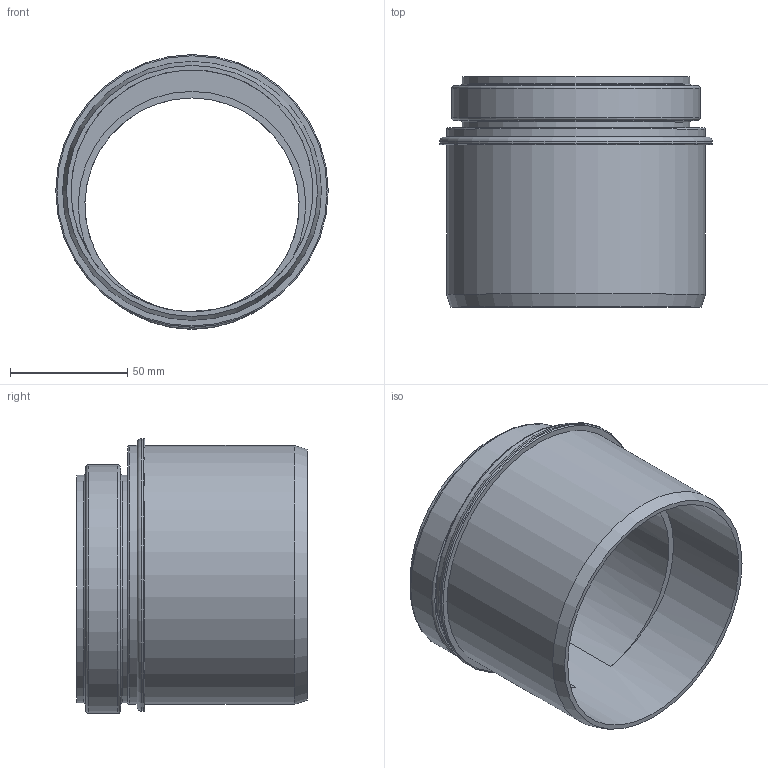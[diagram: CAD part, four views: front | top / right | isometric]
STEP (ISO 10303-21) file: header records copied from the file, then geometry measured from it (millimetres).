
FILE_DESCRIPTION(/* description */ (''),/* implementation_level */ '2;1');
FILE_NAME(/* name */ 'Z:\Geberit\Export\Export15\Reduktion PP-MD_Ipart\stp\390577.stp',/* time_stamp */ '2014-04-27T21:13:37+02:00',/* author */ ('Bründl'),/* organization */ (''),/* preprocessor_version */ 'ST-DEVELOPER v15.2',/* originating_system */ 'Autodesk Inventor 2014',/* authorisation */ '');
FILE_SCHEMA (('AUTOMOTIVE_DESIGN { 1 0 10303 214 3 1 1 }'));
Length unit declared in the file: millimetre
Products named in the file (1): 390577
Bounding box: 116 x 98 x 116.95 mm (x, y, z)
Volume: 152824.6 mm3; surface area: 88543.8 mm2
Topology: 1 solids, 1 shells, 35 faces, 71 edges, 41 vertices
Faces by surface type: torus 11, cylinder 11, plane 8, cone 5
Full cylindrical faces by diameter (mm): 91.2 x2, 96.8 x2, 100.2 x1, 103 x1, 105.8 x1, 110.2 x2, 116 x1
Entity records: 814 total; most frequent: DIRECTION 152, CARTESIAN_POINT 116, ORIENTED_EDGE 84, AXIS2_PLACEMENT_3D 74, EDGE_LOOP 66, EDGE_CURVE 42, CIRCLE 38, VERTEX_POINT 38
